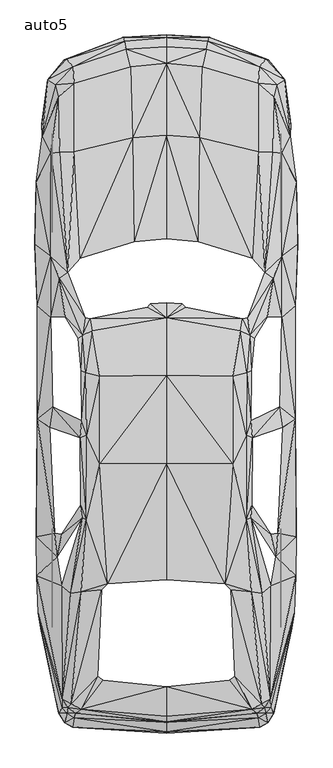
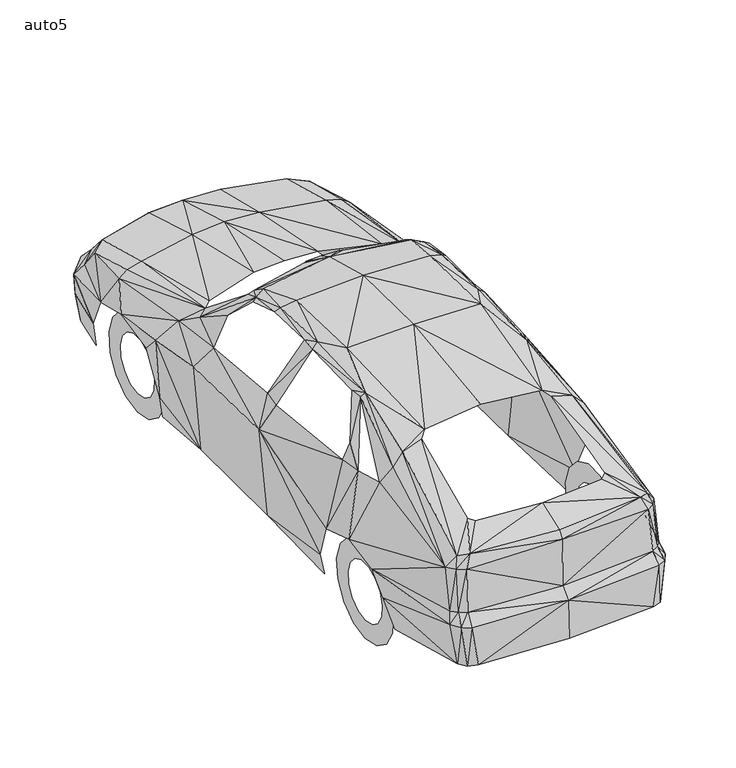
"""IFC4 building model written with IfcOpenShell, lengths in millimetres: proxy geometry, M_RPC maschio : auto5."""

import ifcopenshell
import ifcopenshell.guid

model = None  # the IFC model being written
_history = None  # IfcOwnerHistory: only IFC2X3 demands one
_inside = {}  # id of a spatial element -> (the spatial element, [elements in it])
_under = {}  # id of a project, library or spatial element -> (it, [spatial elements below it])
_declared = {}  # id of a project -> (the project, [libraries it declares])
_typed = {}  # id of a type object -> (the type object, [elements of that type])
_made_of = {}  # id of a material, layer set ... -> (it, [elements and type objects made of it])


def new_model(schema):
    """Start an empty IFC model of exactly this schema.

    Asked for "IFC4X3", IfcOpenShell would pick the latest addendum, in which some entities
    have other attributes; the version numbers below select the first issue.
    IFC2X3 requires an IfcOwnerHistory on every rooted entity: one is made here for all.
    """
    global model, _history
    if schema == "IFC4X3":
        model = ifcopenshell.file(schema_version=(4, 3, 0, 0))
    else:
        model = ifcopenshell.file(schema=schema)
    _inside.clear()
    _under.clear()
    _declared.clear()
    _typed.clear()
    _made_of.clear()
    _history = None
    if model.schema == "IFC2X3":
        org = make("IfcOrganization", Name="unknown")
        user = make(
            "IfcPersonAndOrganization",
            ThePerson=make("IfcPerson", FamilyName="unknown"),
            TheOrganization=org,
        )
        app = make(
            "IfcApplication",
            ApplicationDeveloper=org,
            Version="unknown",
            ApplicationFullName="unknown",
            ApplicationIdentifier="unknown",
        )
        _history = make(
            "IfcOwnerHistory",
            OwningUser=user,
            OwningApplication=app,
            ChangeAction="ADDED",
            CreationDate=0,
        )
    return model


def make(cls, **values):
    """One entity of the class cls with the attributes given. An attribute that is None is left unset."""
    return model.create_entity(
        cls, **{name: value for name, value in values.items() if value is not None}
    )


def rooted(cls, **values):
    """An entity with a GlobalId (a new one), such as an element, a storey or a relation."""
    return make(cls, GlobalId=ifcopenshell.guid.new(), OwnerHistory=_history, **values)


def si_unit(unit_type, name, prefix=None):
    """IfcSIUnit, for example si_unit("LENGTHUNIT", "METRE", prefix="MILLI")."""
    return make("IfcSIUnit", UnitType=unit_type, Prefix=prefix, Name=name)


def assignment(units):
    """IfcUnitAssignment: the units of a project."""
    return None if units is None else make("IfcUnitAssignment", Units=units)


def point(xyz):
    """IfcCartesianPoint."""
    return None if xyz is None else make("IfcCartesianPoint", Coordinates=xyz)


def direction(xyz):
    """IfcDirection."""
    return None if xyz is None else make("IfcDirection", DirectionRatios=xyz)


def frame(location, z_axis=None, x_axis=None):
    """IfcAxis2Placement3D, a coordinate frame: its origin and axes. An axis left out is left unset."""
    return make(
        "IfcAxis2Placement3D",
        Location=point(location),
        Axis=direction(z_axis),
        RefDirection=direction(x_axis),
    )


def origin():
    """The frame at (0, 0, 0) with its axes left unset."""
    return frame((0.0, 0.0, 0.0))


def place(relative_to, where):
    """IfcLocalPlacement: puts the frame where relative to a parent placement (None: the world)."""
    return make(
        "IfcLocalPlacement", PlacementRelTo=relative_to, RelativePlacement=where
    )


def context(
    kind, dimensions, precision=None, world=None, true_north=None, identifier=None
):
    """IfcGeometricRepresentationContext, for example the 3D "Model" context."""
    return make(
        "IfcGeometricRepresentationContext",
        ContextIdentifier=identifier,
        ContextType=kind,
        CoordinateSpaceDimension=dimensions,
        Precision=precision,
        WorldCoordinateSystem=world,
        TrueNorth=true_north,
    )


def project(units=None, contexts=None):
    """IfcProject with its units and contexts."""
    return rooted(
        "IfcProject",
        Name="project",
        RepresentationContexts=contexts,
        UnitsInContext=assignment(units),
    )


def spatial(cls, under=None, at=None, **own):
    """A site, building, storey or space (cls), placed at a placement, below another one or the project."""
    s = rooted(cls, ObjectPlacement=at, **own)
    if under is not None:
        _under.setdefault(under.id(), (under, []))[1].append(s)
    return s


def point_list(points):
    """IfcCartesianPointList2D or 3D."""
    cls = (
        "IfcCartesianPointList2D" if len(points[0]) == 2 else "IfcCartesianPointList3D"
    )
    return make(cls, CoordList=points)


def triangles(points, corners, closed=None, point_numbers=None):
    """IfcTriangulatedFaceSet: each triangle names its three corners, points numbered from 1."""
    return make(
        "IfcTriangulatedFaceSet",
        Coordinates=point_list(points),
        Closed=closed,
        CoordIndex=corners,
        PnIndex=point_numbers,
    )


def shape(context_of_items, identifier, shape_type, items):
    """IfcShapeRepresentation: the items that make up one representation, for example the "Body"."""
    return make(
        "IfcShapeRepresentation",
        ContextOfItems=context_of_items,
        RepresentationIdentifier=identifier,
        RepresentationType=shape_type,
        Items=items,
    )


def source(mapping_origin, context_of_items, identifier, shape_type, items):
    """IfcRepresentationMap: a shape defined once, which mapped items show again and again."""
    return make(
        "IfcRepresentationMap",
        MappingOrigin=mapping_origin,
        MappedRepresentation=shape(context_of_items, identifier, shape_type, items),
    )


def transform(
    local_origin,
    x_axis=None,
    y_axis=None,
    z_axis=None,
    scale=None,
    scale2=None,
    scale3=None,
    uniform=True,
):
    """IfcCartesianTransformationOperator3D, or its non-uniform kind. x_axis, y_axis, z_axis: its Axis1, 2, 3."""
    if uniform:
        return make(
            "IfcCartesianTransformationOperator3D",
            Axis1=direction(x_axis),
            Axis2=direction(y_axis),
            LocalOrigin=point(local_origin),
            Scale=scale,
            Axis3=direction(z_axis),
        )
    return make(
        "IfcCartesianTransformationOperator3DnonUniform",
        Axis1=direction(x_axis),
        Axis2=direction(y_axis),
        LocalOrigin=point(local_origin),
        Scale=scale,
        Axis3=direction(z_axis),
        Scale2=scale2,
        Scale3=scale3,
    )


def mapped(mapping_source, mapping_target):
    """IfcMappedItem: shows the shape of a source again, moved by a transform."""
    return make(
        "IfcMappedItem", MappingSource=mapping_source, MappingTarget=mapping_target
    )


def made_of(thing, what):
    """Note that an element or type object is made of a material, layer set ...; save() writes the relation."""
    if what is not None:
        _made_of.setdefault(what.id(), (what, []))[1].append(thing)
    return thing


def element(
    cls,
    number,
    at=None,
    inside=None,
    cuts=None,
    type_object=None,
    material=None,
    context=None,
    identifier="Body",
    shape_type=None,
    held_by="IfcProductDefinitionShape",
    body=None,
    shapes=None,
    **own,
):
    """One element of the class cls, such as IfcWall. Its Tag is "e" and its number.

    at: its placement. inside: the storey or other place that contains it. cuts: it is an
    opening in that element (IfcRelVoidsElement). A single representation is given by context,
    identifier, shape_type and body (its items); several are given by shapes. held_by: the class
    of the entity that holds the representations. save() writes the other relations.
    """
    e = rooted(cls, Tag="e%d" % number, ObjectPlacement=at, **own)
    if body is not None:
        shapes = [shape(context, identifier, shape_type, body)]
    if shapes is not None:
        e.Representation = make(held_by, Representations=shapes)
    if inside is not None:
        _inside.setdefault(inside.id(), (inside, []))[1].append(e)
    if cuts is not None:
        rooted(
            "IfcRelVoidsElement", RelatingBuildingElement=cuts, RelatedOpeningElement=e
        )
    if type_object is not None:
        _typed.setdefault(type_object.id(), (type_object, []))[1].append(e)
    return made_of(e, material)


def aggregate(whole, parts):
    """IfcRelAggregates: a whole, such as a stair, and the parts it consists of."""
    return rooted("IfcRelAggregates", RelatingObject=whole, RelatedObjects=parts)


def save(model, path):
    """Write the relations noted so far, then the file.

    IfcRelAggregates (storeys below a building ...), IfcRelContainedInSpatialStructure (elements
    in a storey), IfcRelDefinesByType, IfcRelAssociatesMaterial and IfcRelDeclares: one each for
    every whole, place, type object, material and project.
    """
    for whole, parts in _under.values():
        aggregate(whole, parts)
    for where, things in _inside.values():
        rooted(
            "IfcRelContainedInSpatialStructure",
            RelatedElements=things,
            RelatingStructure=where,
        )
    for kind, things in _typed.values():
        rooted("IfcRelDefinesByType", RelatedObjects=things, RelatingType=kind)
    for what, things in _made_of.values():
        rooted("IfcRelAssociatesMaterial", RelatedObjects=things, RelatingMaterial=what)
    for by, libraries in _declared.values():
        rooted("IfcRelDeclares", RelatingContext=by, RelatedDefinitions=libraries)
    model.write(path)


def auto5_2e8bc6a9(model_context):
    return source(origin(), model_context, "Body", "Tessellation", [
        triangles([(0.0, 3257.5761612, 704.142485), (0.0, 3363.1240791, 573.1246101), (0.0, 3436.9134705, 405.5265553), (0.0, 3418.0468895, 516.1056341), (0.0, 3405.0500084, 234.6792256), (0.0, 2802.4725449, 834.9507797), (0.0, 2146.2301884, 971.3141859), (0.0, -914.4523951, 653.2027164), (0.0, -974.720664, 591.2574786), (0.0, -982.1624336, 341.9042759), (0.0, -11.1627237, 1321.4986977), (0.0, 1741.9614052, 1250.1202057), (0.0, -909.7357498, 960.7279135), (0.0, -876.3, 1006.0077078), (0.0, -689.6257113, 1072.3551842), (0.0, 726.4155441, 1409.7524677), (0.0, 1281.1976692, 1401.6817394), (0.0, 1645.6370522, 1302.3177464), (-733.7001286, 1650.0392544, 949.6176178), (-623.7499357, 1933.6667095, 1001.7102957), (-760.218132, 1746.258672, 219.9004038), (-787.3650942, 2795.8691689, 574.9064781), (-824.7837404, 2506.4769493, 684.5422279), (-253.7554413, 3346.0393661, 575.8498072), (-227.971114, 3236.6134872, 711.1650942), (-584.2349422, 3132.1134705, 719.4454027), (-806.8604885, 2114.0520653, 361.0852999), (-818.9141859, 1724.1428707, 805.1834833), (-819.4382092, 2240.8774635, 618.6140574), (-590.733419, 3234.936264, 596.7078363), (-630.6676821, 3281.4738304, 533.8192695), (-635.2795372, 3249.6103683, 231.9540649), (-272.5171958, 3384.296624, 242.0162232), (-647.3331619, 3279.4823822, 417.9994494), (-270.420903, 3421.7152702, 415.3790789), (-750.8897043, 3153.1810799, 535.4962747), (-263.0839053, 3396.9792801, 523.6522665), (-789.3565424, 2872.1741043, 389.385135), (-745.4393103, 3146.5779945, 405.0024593), (-763.3625622, 2884.751825, 226.8181502), (-790.6143145, 2108.392091, 227.2374197), (-699.7402828, 3122.9945503, 601.1100386), (-205.1216002, 2127.1538818, 977.3933933), (-545.2440082, 2022.33964, 972.0478621), (-678.7774635, 1896.3528534, 983.2630205), (-731.6038176, 2035.231731, 893.961204), (-214.7645073, 2784.6541557, 834.9507797), (-583.8156727, 2697.9725281, 838.9336761), (-676.6811525, 2694.618663, 815.1408697), (-732.0231234, 2687.7007713, 778.5606897), (-680.8737019, 3047.0041306, 719.1309597), (-833.1689117, 2113.3183891, 753.7196915), (-584.5493852, -885.8380806, 661.7975407), (-805.2882734, 356.4210497, 376.9122408), (-762.4192331, 1005.4312168, 227.2374197), (-818.2852999, 1003.7542116, 821.5345201), (-823.9452742, 260.9352174, 609.0759404), (-821.2200771, 13.3638236, 689.9925493), (-811.4723436, -225.0887136, 630.6676821), (-661.4830976, -822.2158012, 658.0242245), (-630.038796, -858.271958, 661.7975407), (-775.3113968, 360.5088089, 231.9540649), (-594.1922922, -943.8003857, 599.6426499), (-553.838796, -947.8881449, 338.2357498), (-644.0839417, -916.8631491, 599.8522665), (-611.381868, -923.8856855, 335.7202057), (-680.8737019, -855.6515511, 593.6682326), (-746.8019451, -367.2169024, 290.7548907), (-643.9790789, -872.6314739, 331.0035604), (-796.0646358, -317.8493852, 491.1598457), (-538.8503577, -86.5242063, 1237.8570007), (-605.3026242, -98.4730409, 1167.5265553), (-529.6266838, 1534.8483204, 1283.4511654), (-371.8811525, -36.1085291, 1297.3914482), (-559.6035604, 1517.8683975, 1275.7997429), (-482.7746744, 1639.4529819, 1250.5395115), (-470.3017802, 1563.7770779, 1302.3177464), (-534.7625985, 381.4716645, 1319.4024593), (-541.5755184, 459.7679392, 1318.3542675), (-738.2071209, 954.910754, 987.874803), (-509.1878878, 369.4180035, 1344.2435303), (-706.762892, 282.2125161, 1018.5854284), (-662.0071209, 277.4958708, 1118.2637918), (-719.0261696, 1082.1553127, 981.1667095), (-641.3587446, 1654.0221508, 1130.4222794), (-98.4206368, 1734.8339333, 1252.6357498), (-120.3268214, 1713.7663239, 1264.1652786), (-515.8960176, 1647.2091946, 1231.6729305), (-541.2610754, -831.4395115, 1006.3221508), (-620.9199486, -822.006221, 924.8814096), (-573.7534962, -856.5948801, 930.9606897), (-662.8456598, -48.3718022, 1054.5367224), (-660.3301157, -769.4942373, 921.3177464), (-399.866581, -647.8047901, 1065.4374378), (-410.2432005, -74.8898193, 1270.2445587), (-602.6822536, -795.4881449, 993.7444302), (-435.2938153, -621.6012297, 1080.6354927), (-693.0321894, 135.367673, 1029.905377), (-423.1353642, 1276.6906769, 1384.1777206), (-422.0872087, 722.956671, 1400.6335476), (-506.2531105, 903.7613325, 1361.7474037), (-536.4396037, 994.1112682, 1331.0369236), (-510.5504863, 1299.4353642, 1348.8553127), (-540.4225728, 1311.8035046, 1326.0058353), (-546.1873372, 885.7332905, 1335.4391258), (-723.009066, 3124.7764183, 229.3336943), (733.7001286, 1650.0392544, 949.6176178), (623.7499357, 1933.6667095, 1001.7102957), (760.218132, 1746.258672, 219.9004038), (787.3650942, 2795.8691689, 574.9064781), (824.7837404, 2506.4769493, 684.5422279), (253.7554413, 3346.0393661, 575.8498072), (227.971114, 3236.6134872, 711.1650942), (584.2349422, 3132.1134705, 719.4454027), (806.8604885, 2114.0520653, 361.0852999), (818.9141859, 1724.1428707, 805.1834833), (819.4382092, 2240.8774635, 618.6140574), (590.733419, 3234.936264, 596.7078363), (630.6676821, 3281.4738304, 533.8192695), (635.2795372, 3249.6103683, 231.9540649), (272.5171958, 3384.296624, 242.0162232), (647.3331619, 3279.4823822, 417.9994494), (270.420903, 3421.7152702, 415.3790789), (750.8897043, 3153.1810799, 535.4962747), (263.0839053, 3396.9792801, 523.6522665), (789.3565424, 2872.1741043, 389.385135), (745.4393103, 3146.5779945, 405.0024593), (763.3625622, 2884.751825, 226.8181502), (790.6143145, 2108.392091, 227.2374197), (699.7402828, 3122.9945503, 601.1100386), (205.1216002, 2127.1538818, 977.3933933), (545.2440082, 2022.33964, 972.0478621), (678.7774635, 1896.3528534, 983.2630205), (731.6038176, 2035.231731, 893.961204), (214.7645073, 2784.6541557, 834.9507797), (583.8156727, 2697.9725281, 838.9336761), (676.6811525, 2694.618663, 815.1408697), (732.0231234, 2687.7007713, 778.5606897), (680.8737019, 3047.0041306, 719.1309597), (833.1689117, 2113.3183891, 753.7196915), (584.5493852, -885.8380806, 661.7975407), (805.2882734, 356.4210497, 376.9122408), (762.4192331, 1005.4312168, 227.2374197), (818.2852999, 1003.7542116, 821.5345201), (823.9452742, 260.9352174, 609.0759404), (821.2200771, 13.3638236, 689.9925493), (811.4723436, -225.0887136, 630.6676821), (661.4830976, -822.2158012, 658.0242245), (630.038796, -858.271958, 661.7975407), (775.3113968, 360.5088089, 231.9540649), (594.1922922, -943.8003857, 599.6426499), (553.838796, -947.8881449, 338.2357498), (644.0839417, -916.8631491, 599.8522665), (611.381868, -923.8856855, 335.7202057), (680.8737019, -855.6515511, 593.6682326), (746.8019451, -367.2169024, 290.7548907), (643.9790789, -872.6314739, 331.0035604), (796.0646358, -317.8493852, 491.1598457), (538.8503577, -86.5242063, 1237.8570007), (605.3026242, -98.4730409, 1167.5265553), (529.6266838, 1534.8483204, 1283.4511654), (371.8811525, -36.1085291, 1297.3914482), (559.6035604, 1517.8683975, 1275.7997429), (482.7746744, 1639.4529819, 1250.5395115), (470.3017802, 1563.7770779, 1302.3177464), (534.7625985, 381.4716645, 1319.4024593), (541.5755184, 459.7679392, 1318.3542675), (738.2071209, 954.910754, 987.874803), (509.1878878, 369.4180035, 1344.2435303), (706.762892, 282.2125161, 1018.5854284), (662.0071209, 277.4958708, 1118.2637918), (719.0261696, 1082.1553127, 981.1667095), (641.3587446, 1654.0221508, 1130.4222794), (98.4206368, 1734.8339333, 1252.6357498), (120.3268214, 1713.7663239, 1264.1652786), (515.8960176, 1647.2091946, 1231.6729305), (541.2610754, -831.4395115, 1006.3221508), (620.9199486, -822.006221, 924.8814096), (573.7534962, -856.5948801, 930.9606897), (662.8456598, -48.3718022, 1054.5367224), (660.3301157, -769.4942373, 921.3177464), (399.866581, -647.8047901, 1065.4374378), (410.2432005, -74.8898193, 1270.2445587), (602.6822536, -795.4881449, 993.7444302), (435.2938153, -621.6012297, 1080.6354927), (693.0321894, 135.367673, 1029.905377), (423.1353642, 1276.6906769, 1384.1777206), (422.0872087, 722.956671, 1400.6335476), (506.2531105, 903.7613325, 1361.7474037), (536.4396037, 994.1112682, 1331.0369236), (510.5504863, 1299.4353642, 1348.8553127), (540.4225728, 1311.8035046, 1326.0058353), (546.1873372, 885.7332905, 1335.4391258), (723.009066, 3124.7764183, 229.3336943), (-724.843329, 2499.0980392, 0.0209629), (-724.843329, 2499.0980392, 122.0248101), (-724.843329, 2626.7617584, 27.1678684), (-724.843329, 2577.0799072, 138.5854726), (-724.843329, 2732.3096764, 103.7871243), (-724.843329, 2641.645443, 185.4374638), (-724.843329, 2797.5042435, 216.8817654), (-724.843329, 2681.4749886, 254.5101009), (-724.843329, 2811.2350914, 346.6418864), (-724.843329, 2689.8599419, 333.8545129), (-724.843329, 2770.8814499, 470.742015), (-724.843329, 2665.2285965, 409.7400699), (-724.843329, 2683.5710815, 567.695254), (-724.843329, 2611.8780739, 468.960147), (-724.843329, 2564.2926064, 620.7312973), (-724.843329, 2538.9272942, 501.4526041), (-724.843329, 2433.9034721, 620.7312973), (-724.843329, 2459.2684937, 501.4526041), (-724.843329, 2314.6248516, 567.695254), (-724.843329, 2386.3177139, 468.960147), (-724.843329, 2227.3144833, 470.742015), (-724.843329, 2332.9673367, 409.7400699), (-724.843329, 2186.9609871, 346.6418864), (-724.843329, 2308.3359913, 333.8545129), (-724.843329, 2200.6916897, 216.8817654), (-724.843329, 2316.7210899, 254.5101009), (-724.843329, 2265.8861115, 103.7871243), (-724.843329, 2356.5504902, 185.4374638), (-724.843329, 2371.4341747, 27.1678684), (-724.843329, 2421.1161713, 138.5854726), (724.843329, 2499.0980392, 0.0209629), (724.843329, 2499.0980392, 122.0248101), (724.843329, 2371.4341747, 27.1678684), (724.843329, 2421.1161713, 138.5854726), (724.843329, 2265.8861115, 103.7871243), (724.843329, 2356.5504902, 185.4374638), (724.843329, 2200.6916897, 216.8817654), (724.843329, 2316.7210899, 254.5101009), (724.843329, 2186.9609871, 346.6418864), (724.843329, 2308.3359913, 333.8545129), (724.843329, 2227.3144833, 470.742015), (724.843329, 2332.9673367, 409.7400699), (724.843329, 2314.6248516, 567.695254), (724.843329, 2386.3177139, 468.960147), (724.843329, 2433.9034721, 620.7312973), (724.843329, 2459.2684937, 501.4526041), (724.843329, 2564.2926064, 620.7312973), (724.843329, 2538.9272942, 501.4526041), (724.843329, 2683.5710815, 567.695254), (724.843329, 2611.8780739, 468.960147), (724.843329, 2770.8814499, 470.742015), (724.843329, 2665.2285965, 409.7400699), (724.843329, 2811.2350914, 346.6418864), (724.843329, 2689.8599419, 333.8545129), (724.843329, 2797.5042435, 216.8817654), (724.843329, 2681.4749886, 254.5101009), (724.843329, 2732.3096764, 103.7871243), (724.843329, 2641.645443, 185.4374638), (724.843329, 2626.7617584, 27.1678684), (724.843329, 2577.0799072, 138.5854726), (-724.843329, 0.0, 0.0209629), (-724.843329, 0.0, 122.0248101), (-724.843329, 127.6638282, 27.1678684), (-724.843329, 77.9818407, 138.5854726), (-724.843329, 233.211837, 103.7871243), (-724.843329, 142.5474582, 185.4374638), (-724.843329, 298.4063314, 216.8817654), (-724.843329, 182.3768948, 254.5101009), (-724.843329, 312.1370158, 346.6418864), (-724.843329, 190.7620298, 333.8545129), (-724.843329, 271.7835015, 470.742015), (-724.843329, 166.1306663, 409.7400699), (-724.843329, 184.4731695, 567.695254), (-724.843329, 112.7801891, 468.960147), (-724.843329, 65.194499, 620.7312973), (-724.843329, 39.8294366, 501.4526041), (-724.843329, -65.194499, 620.7312973), (-724.843329, -39.8294366, 501.4526041), (-724.843329, -184.4731695, 567.695254), (-724.843329, -112.7801891, 468.960147), (-724.843329, -271.7835015, 470.742015), (-724.843329, -166.1306663, 409.7400699), (-724.843329, -312.1370158, 346.6418864), (-724.843329, -190.7620298, 333.8545129), (-724.843329, -298.4063314, 216.8817654), (-724.843329, -182.3768948, 254.5101009), (-724.843329, -233.211837, 103.7871243), (-724.843329, -142.5474582, 185.4374638), (-724.843329, -127.6638282, 27.1678684), (-724.843329, -77.9818407, 138.5854726), (724.843329, 0.0, 0.0209629), (724.843329, 0.0, 122.0248101), (724.843329, -127.6638282, 27.1678684), (724.843329, -77.9818407, 138.5854726), (724.843329, -233.211837, 103.7871243), (724.843329, -142.5474582, 185.4374638), (724.843329, -298.4063314, 216.8817654), (724.843329, -182.3768948, 254.5101009), (724.843329, -312.1370158, 346.6418864), (724.843329, -190.7620298, 333.8545129), (724.843329, -271.7835015, 470.742015), (724.843329, -166.1306663, 409.7400699), (724.843329, -184.4731695, 567.695254), (724.843329, -112.7801891, 468.960147), (724.843329, -65.194499, 620.7312973), (724.843329, -39.8294366, 501.4526041), (724.843329, 65.194499, 620.7312973), (724.843329, 39.8294366, 501.4526041), (724.843329, 184.4731695, 567.695254), (724.843329, 112.7801891, 468.960147), (724.843329, 271.7835015, 470.742015), (724.843329, 166.1306663, 409.7400699), (724.843329, 312.1370158, 346.6418864), (724.843329, 190.7620298, 333.8545129), (724.843329, 298.4063314, 216.8817654), (724.843329, 182.3768948, 254.5101009), (724.843329, 233.211837, 103.7871243), (724.843329, 142.5474582, 185.4374638), (724.843329, 127.6638282, 27.1678684), (724.843329, 77.9818407, 138.5854726)], [[1, 24, 25], [2, 24, 1], [25, 30, 26], [24, 30, 25], [26, 42, 51], [30, 42, 26], [51, 42, 22], [29, 52, 23], [52, 29, 27], [52, 21, 28], [52, 27, 21], [30, 37, 31], [24, 37, 30], [35, 31, 37], [35, 34, 31], [35, 32, 34], [33, 32, 35], [34, 36, 31], [34, 39, 36], [30, 36, 42], [31, 36, 30], [4, 35, 37], [4, 3, 35], [35, 5, 33], [3, 5, 35], [24, 4, 37], [2, 4, 24], [39, 38, 36], [34, 106, 39], [32, 106, 34], [39, 40, 38], [27, 41, 21], [22, 36, 38], [36, 22, 42], [23, 46, 50], [20, 50, 46], [20, 49, 50], [44, 47, 48], [43, 47, 44], [43, 6, 47], [7, 6, 43], [20, 48, 49], [44, 48, 20], [47, 26, 48], [25, 26, 47], [47, 1, 25], [6, 1, 47], [50, 22, 23], [48, 51, 49], [26, 51, 48], [51, 22, 50], [49, 51, 50], [46, 28, 19], [46, 52, 28], [23, 52, 46], [46, 45, 20], [46, 19, 45], [82, 56, 57], [55, 54, 56], [28, 55, 56], [28, 21, 55], [55, 62, 54], [66, 63, 65], [66, 64, 63], [67, 69, 65], [65, 69, 66], [64, 9, 63], [64, 10, 9], [70, 69, 67], [70, 68, 69], [70, 67, 59], [8, 53, 9], [60, 59, 67], [61, 67, 65], [61, 60, 67], [53, 65, 63], [53, 61, 65], [9, 53, 63], [72, 71, 81], [77, 76, 73], [95, 74, 71], [12, 86, 18], [86, 87, 18], [18, 76, 77], [87, 76, 18], [78, 72, 81], [78, 92, 72], [83, 78, 79], [98, 78, 83], [80, 56, 82], [57, 56, 54], [84, 56, 80], [19, 56, 84], [19, 28, 56], [88, 45, 73], [88, 20, 45], [73, 85, 75], [45, 85, 73], [45, 19, 85], [73, 76, 88], [89, 90, 91], [96, 90, 89], [13, 89, 91], [14, 89, 13], [98, 58, 92], [57, 98, 82], [58, 98, 57], [58, 93, 92], [96, 93, 90], [58, 59, 93], [91, 61, 53], [90, 61, 91], [91, 53, 8], [13, 91, 8], [90, 60, 61], [90, 93, 60], [93, 59, 60], [95, 96, 97], [71, 96, 95], [71, 93, 96], [72, 93, 71], [82, 98, 83], [92, 93, 72], [14, 15, 89], [15, 94, 89], [97, 96, 89], [89, 94, 97], [81, 79, 78], [100, 17, 99], [100, 16, 17], [99, 18, 77], [99, 17, 18], [101, 99, 103], [101, 100, 99], [103, 77, 73], [103, 99, 77], [103, 102, 101], [104, 102, 103], [73, 104, 103], [75, 104, 73], [74, 16, 100], [74, 11, 16], [101, 81, 100], [81, 74, 100], [81, 105, 79], [81, 101, 105], [101, 102, 105], [84, 105, 102], [80, 105, 84], [71, 74, 81], [106, 40, 39], [1, 113, 112], [2, 1, 112], [113, 114, 118], [112, 113, 118], [114, 139, 130], [118, 114, 130], [139, 110, 130], [117, 111, 140], [140, 115, 117], [140, 116, 109], [140, 109, 115], [118, 119, 125], [112, 118, 125], [123, 125, 119], [123, 119, 122], [123, 122, 120], [121, 123, 120], [122, 119, 124], [122, 124, 127], [118, 130, 124], [119, 118, 124], [4, 125, 123], [4, 123, 3], [123, 121, 5], [3, 123, 5], [112, 125, 4], [2, 112, 4], [127, 124, 126], [122, 127, 194], [120, 122, 194], [127, 126, 128], [115, 109, 129], [110, 126, 124], [124, 130, 110], [111, 138, 134], [108, 134, 138], [108, 138, 137], [132, 136, 135], [131, 132, 135], [131, 135, 6], [7, 131, 6], [108, 137, 136], [132, 108, 136], [135, 136, 114], [113, 135, 114], [135, 113, 1], [6, 135, 1], [138, 111, 110], [136, 137, 139], [114, 136, 139], [139, 138, 110], [137, 138, 139], [134, 107, 116], [134, 116, 140], [111, 134, 140], [134, 108, 133], [134, 133, 107], [170, 145, 144], [143, 144, 142], [116, 144, 143], [116, 143, 109], [143, 142, 150], [154, 153, 151], [154, 151, 152], [155, 153, 157], [153, 154, 157], [152, 151, 9], [152, 9, 10], [158, 155, 157], [158, 157, 156], [158, 147, 155], [8, 9, 141], [148, 155, 147], [149, 153, 155], [149, 155, 148], [141, 151, 153], [141, 153, 149], [9, 151, 141], [160, 169, 159], [165, 161, 164], [183, 159, 162], [12, 18, 174], [174, 18, 175], [18, 165, 164], [175, 18, 164], [166, 169, 160], [166, 160, 180], [171, 167, 166], [186, 171, 166], [168, 170, 144], [145, 142, 144], [172, 168, 144], [107, 172, 144], [107, 144, 116], [176, 161, 133], [176, 133, 108], [161, 163, 173], [133, 161, 173], [133, 173, 107], [161, 176, 164], [177, 179, 178], [184, 177, 178], [13, 179, 177], [14, 13, 177], [186, 180, 146], [145, 170, 186], [146, 145, 186], [146, 180, 181], [184, 178, 181], [146, 181, 147], [179, 141, 149], [178, 179, 149], [179, 8, 141], [13, 8, 179], [178, 149, 148], [178, 148, 181], [181, 148, 147], [183, 185, 184], [159, 183, 184], [159, 184, 181], [160, 159, 181], [170, 171, 186], [180, 160, 181], [14, 177, 15], [15, 177, 182], [185, 177, 184], [177, 185, 182], [169, 166, 167], [188, 187, 17], [188, 17, 16], [187, 165, 18], [187, 18, 17], [189, 191, 187], [189, 187, 188], [191, 161, 165], [191, 165, 187], [191, 189, 190], [192, 191, 190], [161, 191, 192], [163, 161, 192], [162, 188, 16], [162, 16, 11], [189, 188, 169], [169, 188, 162], [169, 167, 193], [169, 193, 189], [189, 193, 190], [172, 190, 193], [168, 172, 193], [159, 169, 162], [194, 127, 128], [195, 198, 197], [195, 196, 198], [197, 200, 199], [197, 198, 200], [199, 202, 201], [199, 200, 202], [201, 204, 203], [201, 202, 204], [203, 206, 205], [203, 204, 206], [205, 208, 207], [205, 206, 208], [207, 210, 209], [207, 208, 210], [209, 212, 211], [209, 210, 212], [211, 214, 213], [211, 212, 214], [213, 216, 215], [213, 214, 216], [215, 218, 217], [215, 216, 218], [217, 220, 219], [217, 218, 220], [219, 222, 221], [219, 220, 222], [221, 224, 223], [221, 222, 224], [223, 196, 195], [223, 224, 196], [225, 228, 227], [225, 226, 228], [227, 230, 229], [227, 228, 230], [229, 232, 231], [229, 230, 232], [231, 234, 233], [231, 232, 234], [233, 236, 235], [233, 234, 236], [235, 238, 237], [235, 236, 238], [237, 240, 239], [237, 238, 240], [239, 242, 241], [239, 240, 242], [241, 244, 243], [241, 242, 244], [243, 246, 245], [243, 244, 246], [245, 248, 247], [245, 246, 248], [247, 250, 249], [247, 248, 250], [249, 252, 251], [249, 250, 252], [251, 254, 253], [251, 252, 254], [253, 226, 225], [253, 254, 226], [255, 258, 257], [255, 256, 258], [257, 260, 259], [257, 258, 260], [259, 262, 261], [259, 260, 262], [261, 264, 263], [261, 262, 264], [263, 266, 265], [263, 264, 266], [265, 268, 267], [265, 266, 268], [267, 270, 269], [267, 268, 270], [269, 272, 271], [269, 270, 272], [271, 274, 273], [271, 272, 274], [273, 276, 275], [273, 274, 276], [275, 278, 277], [275, 276, 278], [277, 280, 279], [277, 278, 280], [279, 282, 281], [279, 280, 282], [281, 284, 283], [281, 282, 284], [283, 256, 255], [283, 284, 256], [285, 288, 287], [285, 286, 288], [287, 290, 289], [287, 288, 290], [289, 292, 291], [289, 290, 292], [291, 294, 293], [291, 292, 294], [293, 296, 295], [293, 294, 296], [295, 298, 297], [295, 296, 298], [297, 300, 299], [297, 298, 300], [299, 302, 301], [299, 300, 302], [301, 304, 303], [301, 302, 304], [303, 306, 305], [303, 304, 306], [305, 308, 307], [305, 306, 308], [307, 310, 309], [307, 308, 310], [309, 312, 311], [309, 310, 312], [311, 314, 313], [311, 312, 314], [313, 286, 285], [313, 314, 286]], closed=False),
    ])


if __name__ == "__main__":
    model = new_model("IFC4")
    model_context = context("Model", 3, world=origin())
    ifc_project = project(units=[si_unit("LENGTHUNIT", "METRE", prefix="MILLI")], contexts=[model_context])
    site = spatial("IfcSite", under=ifc_project)
    building = spatial("IfcBuilding", under=site)
    placement = place(None, origin())
    auto5_shape = auto5_2e8bc6a9(model_context)
    element("IfcBuildingElementProxy", 1, Name="M_RPC maschio : auto5", ObjectType="M_RPC maschio : auto5", at=placement, inside=building, context=model_context, shape_type="MappedRepresentation", body=[
        mapped(auto5_shape, transform((0.0, 0.0, 0.0), x_axis=(1.0, 0.0, 0.0), y_axis=(0.0, 1.0, 0.0), z_axis=(0.0, 0.0, 1.0))),
    ])
    save(model, "model.ifc")
